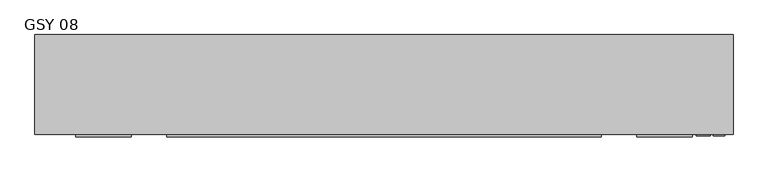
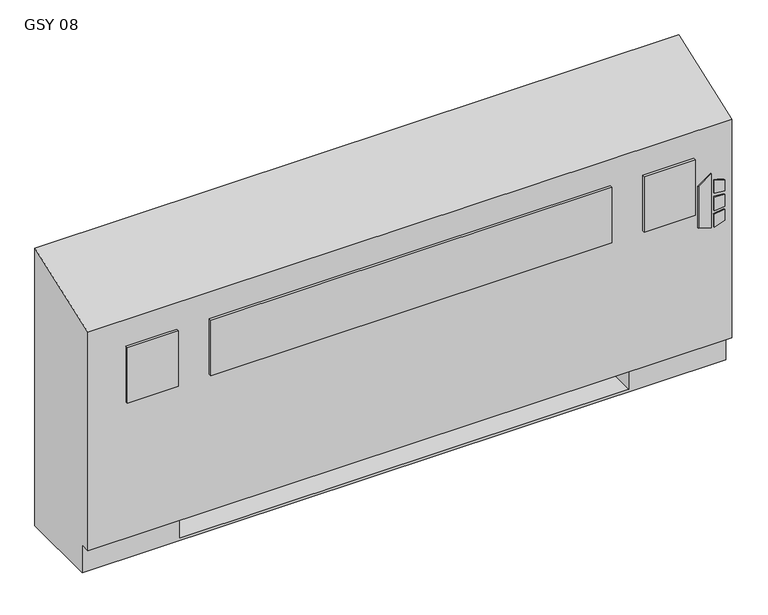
"""IFC4 building model written with IfcOpenShell, lengths in millimetres: proxy geometry, Vertical_Fan_Coil_Unit_-_GSY_-_IEC_-_2-Pipe_FS-FR_RH_2022 : GSY 08."""

import ifcopenshell
import ifcopenshell.guid

model = None  # the IFC model being written
_history = None  # IfcOwnerHistory: only IFC2X3 demands one
_inside = {}  # id of a spatial element -> (the spatial element, [elements in it])
_under = {}  # id of a project, library or spatial element -> (it, [spatial elements below it])
_declared = {}  # id of a project -> (the project, [libraries it declares])
_typed = {}  # id of a type object -> (the type object, [elements of that type])
_made_of = {}  # id of a material, layer set ... -> (it, [elements and type objects made of it])


def new_model(schema):
    """Start an empty IFC model of exactly this schema.

    Asked for "IFC4X3", IfcOpenShell would pick the latest addendum, in which some entities
    have other attributes; the version numbers below select the first issue.
    IFC2X3 requires an IfcOwnerHistory on every rooted entity: one is made here for all.
    """
    global model, _history
    if schema == "IFC4X3":
        model = ifcopenshell.file(schema_version=(4, 3, 0, 0))
    else:
        model = ifcopenshell.file(schema=schema)
    _inside.clear()
    _under.clear()
    _declared.clear()
    _typed.clear()
    _made_of.clear()
    _history = None
    if model.schema == "IFC2X3":
        org = make("IfcOrganization", Name="unknown")
        user = make(
            "IfcPersonAndOrganization",
            ThePerson=make("IfcPerson", FamilyName="unknown"),
            TheOrganization=org,
        )
        app = make(
            "IfcApplication",
            ApplicationDeveloper=org,
            Version="unknown",
            ApplicationFullName="unknown",
            ApplicationIdentifier="unknown",
        )
        _history = make(
            "IfcOwnerHistory",
            OwningUser=user,
            OwningApplication=app,
            ChangeAction="ADDED",
            CreationDate=0,
        )
    return model


def make(cls, **values):
    """One entity of the class cls with the attributes given. An attribute that is None is left unset."""
    return model.create_entity(
        cls, **{name: value for name, value in values.items() if value is not None}
    )


def rooted(cls, **values):
    """An entity with a GlobalId (a new one), such as an element, a storey or a relation."""
    return make(cls, GlobalId=ifcopenshell.guid.new(), OwnerHistory=_history, **values)


def si_unit(unit_type, name, prefix=None):
    """IfcSIUnit, for example si_unit("LENGTHUNIT", "METRE", prefix="MILLI")."""
    return make("IfcSIUnit", UnitType=unit_type, Prefix=prefix, Name=name)


def assignment(units):
    """IfcUnitAssignment: the units of a project."""
    return None if units is None else make("IfcUnitAssignment", Units=units)


def point(xyz):
    """IfcCartesianPoint."""
    return None if xyz is None else make("IfcCartesianPoint", Coordinates=xyz)


def direction(xyz):
    """IfcDirection."""
    return None if xyz is None else make("IfcDirection", DirectionRatios=xyz)


def frame(location, z_axis=None, x_axis=None):
    """IfcAxis2Placement3D, a coordinate frame: its origin and axes. An axis left out is left unset."""
    return make(
        "IfcAxis2Placement3D",
        Location=point(location),
        Axis=direction(z_axis),
        RefDirection=direction(x_axis),
    )


def frame_2d(location, x_axis=None):
    """IfcAxis2Placement2D, a coordinate frame in the plane: its origin and x axis."""
    return make(
        "IfcAxis2Placement2D", Location=point(location), RefDirection=direction(x_axis)
    )


def origin():
    """The frame at (0, 0, 0) with its axes left unset."""
    return frame((0.0, 0.0, 0.0))


def place(relative_to, where):
    """IfcLocalPlacement: puts the frame where relative to a parent placement (None: the world)."""
    return make(
        "IfcLocalPlacement", PlacementRelTo=relative_to, RelativePlacement=where
    )


def context(
    kind, dimensions, precision=None, world=None, true_north=None, identifier=None
):
    """IfcGeometricRepresentationContext, for example the 3D "Model" context."""
    return make(
        "IfcGeometricRepresentationContext",
        ContextIdentifier=identifier,
        ContextType=kind,
        CoordinateSpaceDimension=dimensions,
        Precision=precision,
        WorldCoordinateSystem=world,
        TrueNorth=true_north,
    )


def project(units=None, contexts=None):
    """IfcProject with its units and contexts."""
    return rooted(
        "IfcProject",
        Name="project",
        RepresentationContexts=contexts,
        UnitsInContext=assignment(units),
    )


def spatial(cls, under=None, at=None, **own):
    """A site, building, storey or space (cls), placed at a placement, below another one or the project."""
    s = rooted(cls, ObjectPlacement=at, **own)
    if under is not None:
        _under.setdefault(under.id(), (under, []))[1].append(s)
    return s


def polyline(points):
    """IfcPolyline through the points."""
    return make("IfcPolyline", Points=[point(p) for p in points])


def circle_curve(where, radius):
    """IfcCircle in the frame where."""
    return make("IfcCircle", Position=where, Radius=radius)


def trimmed(basis, trim1, trim2, sense, master):
    """IfcTrimmedCurve: the piece of a basis curve between two trims."""
    return make(
        "IfcTrimmedCurve",
        BasisCurve=basis,
        Trim1=trim1,
        Trim2=trim2,
        SenseAgreement=sense,
        MasterRepresentation=master,
    )


def segment(curve, same_sense, transition):
    """IfcCompositeCurveSegment."""
    return make(
        "IfcCompositeCurveSegment",
        Transition=transition,
        SameSense=same_sense,
        ParentCurve=curve,
    )


def composite_curve(segments, self_intersect=None):
    """IfcCompositeCurve: segments joined end to end."""
    return make("IfcCompositeCurve", Segments=segments, SelfIntersect=self_intersect)


def outline(outer, holes=None, kind="AREA"):
    """IfcArbitraryClosedProfileDef: a profile drawn as a closed curve; with holes, ...WithVoids."""
    if holes is None:
        return make("IfcArbitraryClosedProfileDef", ProfileType=kind, OuterCurve=outer)
    return make(
        "IfcArbitraryProfileDefWithVoids",
        ProfileType=kind,
        OuterCurve=outer,
        InnerCurves=holes,
    )


def extrude(swept, where, along, depth):
    """IfcExtrudedAreaSolid: the profile swept, set in the frame where, extruded along a direction by depth."""
    return make(
        "IfcExtrudedAreaSolid",
        SweptArea=swept,
        Position=where,
        ExtrudedDirection=direction(along),
        Depth=depth,
    )


def shape(context_of_items, identifier, shape_type, items):
    """IfcShapeRepresentation: the items that make up one representation, for example the "Body"."""
    return make(
        "IfcShapeRepresentation",
        ContextOfItems=context_of_items,
        RepresentationIdentifier=identifier,
        RepresentationType=shape_type,
        Items=items,
    )


def source(mapping_origin, context_of_items, identifier, shape_type, items):
    """IfcRepresentationMap: a shape defined once, which mapped items show again and again."""
    return make(
        "IfcRepresentationMap",
        MappingOrigin=mapping_origin,
        MappedRepresentation=shape(context_of_items, identifier, shape_type, items),
    )


def transform(
    local_origin,
    x_axis=None,
    y_axis=None,
    z_axis=None,
    scale=None,
    scale2=None,
    scale3=None,
    uniform=True,
):
    """IfcCartesianTransformationOperator3D, or its non-uniform kind. x_axis, y_axis, z_axis: its Axis1, 2, 3."""
    if uniform:
        return make(
            "IfcCartesianTransformationOperator3D",
            Axis1=direction(x_axis),
            Axis2=direction(y_axis),
            LocalOrigin=point(local_origin),
            Scale=scale,
            Axis3=direction(z_axis),
        )
    return make(
        "IfcCartesianTransformationOperator3DnonUniform",
        Axis1=direction(x_axis),
        Axis2=direction(y_axis),
        LocalOrigin=point(local_origin),
        Scale=scale,
        Axis3=direction(z_axis),
        Scale2=scale2,
        Scale3=scale3,
    )


def mapped(mapping_source, mapping_target):
    """IfcMappedItem: shows the shape of a source again, moved by a transform."""
    return make(
        "IfcMappedItem", MappingSource=mapping_source, MappingTarget=mapping_target
    )


def made_of(thing, what):
    """Note that an element or type object is made of a material, layer set ...; save() writes the relation."""
    if what is not None:
        _made_of.setdefault(what.id(), (what, []))[1].append(thing)
    return thing


def element(
    cls,
    number,
    at=None,
    inside=None,
    cuts=None,
    type_object=None,
    material=None,
    context=None,
    identifier="Body",
    shape_type=None,
    held_by="IfcProductDefinitionShape",
    body=None,
    shapes=None,
    **own,
):
    """One element of the class cls, such as IfcWall. Its Tag is "e" and its number.

    at: its placement. inside: the storey or other place that contains it. cuts: it is an
    opening in that element (IfcRelVoidsElement). A single representation is given by context,
    identifier, shape_type and body (its items); several are given by shapes. held_by: the class
    of the entity that holds the representations. save() writes the other relations.
    """
    e = rooted(cls, Tag="e%d" % number, ObjectPlacement=at, **own)
    if body is not None:
        shapes = [shape(context, identifier, shape_type, body)]
    if shapes is not None:
        e.Representation = make(held_by, Representations=shapes)
    if inside is not None:
        _inside.setdefault(inside.id(), (inside, []))[1].append(e)
    if cuts is not None:
        rooted(
            "IfcRelVoidsElement", RelatingBuildingElement=cuts, RelatedOpeningElement=e
        )
    if type_object is not None:
        _typed.setdefault(type_object.id(), (type_object, []))[1].append(e)
    return made_of(e, material)


def aggregate(whole, parts):
    """IfcRelAggregates: a whole, such as a stair, and the parts it consists of."""
    return rooted("IfcRelAggregates", RelatingObject=whole, RelatedObjects=parts)


def save(model, path):
    """Write the relations noted so far, then the file.

    IfcRelAggregates (storeys below a building ...), IfcRelContainedInSpatialStructure (elements
    in a storey), IfcRelDefinesByType, IfcRelAssociatesMaterial and IfcRelDeclares: one each for
    every whole, place, type object, material and project.
    """
    for whole, parts in _under.values():
        aggregate(whole, parts)
    for where, things in _inside.values():
        rooted(
            "IfcRelContainedInSpatialStructure",
            RelatedElements=things,
            RelatingStructure=where,
        )
    for kind, things in _typed.values():
        rooted("IfcRelDefinesByType", RelatedObjects=things, RelatingType=kind)
    for what, things in _made_of.values():
        rooted("IfcRelAssociatesMaterial", RelatedObjects=things, RelatingMaterial=what)
    for by, libraries in _declared.values():
        rooted("IfcRelDeclares", RelatingContext=by, RelatedDefinitions=libraries)
    model.write(path)


def plane_surface(at):
    """IfcPlane: the flat surface through the origin of the frame at, square to its z axis."""
    return make("IfcPlane", Position=at)


def revolved_surface(curve, axis_point, axis_direction):
    """IfcSurfaceOfRevolution: the curve turned about the line through axis_point along axis_direction."""
    return make(
        "IfcSurfaceOfRevolution",
        SweptCurve=make("IfcArbitraryOpenProfileDef", ProfileType="CURVE", Curve=curve),
        AxisPosition=make("IfcAxis1Placement", Location=point(axis_point), Axis=direction(axis_direction)),
    )


def advanced_brep(points, edges, surfaces, faces):
    """IfcAdvancedBrep: a solid bounded by faces that lie on surfaces and meet in shared edges.

    An edge is (start, end): straight between two places in points (the first is 0);
    or (start, end, curve); or (start, end, curve, False) where it runs against its curve.
    A face is (place in surfaces, loops), or (place, loops, False) where it looks against
    its surface's normal. A loop lists edges by number (the first is 1), with a minus sign
    where the edge is run from its end to its start. The first loop is the outer one.
    """
    corners = [point(p) for p in points]
    vertices = [make("IfcVertexPoint", VertexGeometry=c) for c in corners]
    made = []
    for start, end, *more in edges:
        made.append(
            make(
                "IfcEdgeCurve",
                EdgeStart=vertices[start],
                EdgeEnd=vertices[end],
                EdgeGeometry=more[0] if more else make("IfcPolyline", Points=[corners[start], corners[end]]),
                SameSense=more[1] if len(more) > 1 else True,
            )
        )
    hull = []
    for where, loops, *sense in faces:
        bounds = []
        for j, loop in enumerate(loops):
            ring = [make("IfcOrientedEdge", EdgeElement=made[abs(k) - 1], Orientation=k > 0) for k in loop]
            bounds.append(
                make(
                    "IfcFaceOuterBound" if j == 0 else "IfcFaceBound",
                    Bound=make("IfcEdgeLoop", EdgeList=ring),
                    Orientation=True,
                )
            )
        hull.append(make("IfcAdvancedFace", Bounds=bounds, FaceSurface=surfaces[where], SameSense=sense[0] if sense else True))
    return make("IfcAdvancedBrep", Outer=make("IfcClosedShell", CfsFaces=hull))


def gsy_08_512bcfd8(model_context):
    return source(origin(), model_context, "Body", "SolidModel", [
        extrude(outline(polyline([(391.6086829, 868.4368862), (381.6606126, 900.6102728), (523.831537, 900.6102728), (500.8095309, 868.4368862), (391.6086829, 868.4368862)])), frame((0.0, 12.7, 0.0), z_axis=(0.0, 1.0, 0.0), x_axis=(0.0, 0.0, 1.0)), (0.0, 0.0, 1.0), 3.175),
        extrude(outline(polyline([(470.6079683, 907.3686058), (467.4055757, 933.45), (496.6344168, 933.45), (504.6988318, 907.3686058), (470.6079683, 907.3686058)])), frame((0.0, 12.7, 0.0), z_axis=(0.0, 1.0, 0.0), x_axis=(0.0, 0.0, 1.0)), (0.0, 0.0, 1.0), 3.175),
        extrude(outline(polyline([(418.7444414, 933.45), (415.0789404, 907.3686058), (381.6606126, 907.3686058), (390.2948498, 933.45), (418.7444414, 933.45)])), frame((0.0, 12.7, 0.0), z_axis=(0.0, 1.0, 0.0), x_axis=(0.0, 0.0, 1.0)), (0.0, 0.0, 1.0), 3.175),
        extrude(outline(polyline([(458.0596028, 933.45), (460.3414292, 907.3686058), (424.4038806, 907.3686058), (427.1451456, 933.45), (458.0596028, 933.45)])), frame((0.0, 12.7, 0.0), z_axis=(0.0, 1.0, 0.0), x_axis=(0.0, 0.0, 1.0)), (0.0, 0.0, 1.0), 3.175),
        extrude(outline(polyline([(-426.593, 9.525), (-553.593, 9.525), (-553.593, 15.875), (-426.593, 15.875), (-426.593, 9.525)])), frame((0.0, 0.0, 431.8), z_axis=(0.0, 0.0, 1.0), x_axis=(1.0, 0.0, 0.0)), (0.0, 0.0, 1.0), 146.05),
        extrude(outline(polyline([(650.875, 9.525), (-346.075, 9.525), (-346.075, 15.875), (650.875, 15.875), (650.875, 9.525)])), frame((0.0, 0.0, 431.8), z_axis=(0.0, 0.0, 1.0), x_axis=(1.0, 0.0, 0.0)), (0.0, 0.0, 1.0), 146.05),
        extrude(outline(polyline([(858.393, 9.525), (731.393, 9.525), (731.393, 15.875), (858.393, 15.875), (858.393, 9.525)])), frame((0.0, 0.0, 431.8), z_axis=(0.0, 0.0, 1.0), x_axis=(1.0, 0.0, 0.0)), (0.0, 0.0, 1.0), 146.05),
        extrude(outline(polyline([(-527.05, 81.534), (-527.05, 223.266), (-127.0, 223.266), (-127.0, 81.534), (-527.05, 81.534)])), frame((0.0, 0.0, 327.025), z_axis=(0.0, 0.0, 1.0), x_axis=(1.0, 0.0, 0.0)), (0.0, 0.0, 1.0), 260.35),
        extrude(outline(composite_curve([segment(trimmed(circle_curve(frame_2d((80.645, 397.002)), 7.9375), [point((80.645, 404.9395))], [point((80.645, 389.0645))], False, "CARTESIAN"), True, "CONTINUOUS"), segment(trimmed(circle_curve(frame_2d((80.645, 397.002)), 7.9375), [point((80.645, 389.0645))], [point((80.645, 404.9395))], False, "CARTESIAN"), True, "CONTINUOUS")], self_intersect=False)), frame((711.2, 0.0, 0.0), z_axis=(1.0, 0.0, 0.0), x_axis=(0.0, 1.0, 0.0)), (0.0, 0.0, 1.0), 50.8),
        extrude(outline(composite_curve([segment(trimmed(circle_curve(frame_2d((156.8958, 535.8892)), 7.9375), [point((156.8958, 543.8267))], [point((156.8958, 527.9517))], False, "CARTESIAN"), True, "CONTINUOUS"), segment(trimmed(circle_curve(frame_2d((156.8958, 535.8892)), 7.9375), [point((156.8958, 527.9517))], [point((156.8958, 543.8267))], False, "CARTESIAN"), True, "CONTINUOUS")], self_intersect=False)), frame((711.2, 0.0, 0.0), z_axis=(1.0, 0.0, 0.0), x_axis=(0.0, 1.0, 0.0)), (0.0, 0.0, 1.0), 50.8),
        advanced_brep(
        [(-647.7, 244.475, 0.0), (952.5, 244.475, 0.0), (952.5, 41.275, 0.0), (-647.7, 41.275, 0.0), (-647.7, 244.475, 730.25), (952.5, 244.475, 730.25), (711.2, 244.475, 73.025), (939.8, 244.475, 73.025), (939.8, 244.475, 654.05), (711.2, 244.475, 654.05), (711.2, 244.475, 414.8650565), (739.775, 244.475, 414.8650565), (739.775, 244.475, 385.2349435), (711.2, 244.475, 385.2349435), (711.2, 244.475, 287.3375), (739.775, 244.475, 287.3375), (739.775, 244.475, 258.7625), (711.2, 244.475, 258.7625), (711.2, 244.475, 141.2875), (739.775, 244.475, 141.2875), (739.775, 244.475, 112.7125), (711.2, 244.475, 112.7125), (-406.4, 244.475, 654.05), (-635.0, 244.475, 654.05), (-635.0, 244.475, 73.025), (-406.4, 244.475, 73.025), (-406.4, 244.475, 112.7125), (-434.975, 244.475, 112.7125), (-434.975, 244.475, 141.2875), (-406.4, 244.475, 141.2875), (-406.4, 244.475, 258.7625), (-434.975, 244.475, 258.7625), (-434.975, 244.475, 287.3375), (-406.4, 244.475, 287.3375), (-406.4, 244.475, 385.2349435), (-434.975, 244.475, 385.2349435), (-434.975, 244.475, 414.8650565), (-406.4, 244.475, 414.8650565), (729.4626, 244.475, 127.0), (718.3374, 244.475, 127.0), (729.4626, 244.475, 400.05), (718.3374, 244.475, 400.05), (729.4626, 244.475, 273.05), (718.3374, 244.475, 273.05), (-413.5374, 244.475, 127.0), (-424.6626, 244.475, 127.0), (-413.5374, 244.475, 273.05), (-424.6626, 244.475, 273.05), (-413.5374, 244.475, 400.05), (-424.6626, 244.475, 400.05), (-647.7, 41.275, 73.025), (-647.7, 15.875, 73.025), (-647.7, 15.875, 647.7), (952.5, 15.875, 73.025), (952.5, 15.875, 647.7), (952.5, 41.275, 73.025), (-406.4, 41.275, 73.025), (-406.4, 225.425, 73.025), (711.2, 225.425, 73.025), (711.2, 41.275, 73.025), (711.2, 41.275, 6.35), (-406.4, 41.275, 6.35), (711.2, 41.275, 654.05), (939.8, 41.275, 654.05), (939.8, 41.275, 73.025), (711.2, 41.275, 73.025), (-406.4, 41.275, 654.05), (-406.4, 41.275, 73.025), (-635.0, 41.275, 73.025), (-635.0, 41.275, 654.05), (711.2, 225.425, 73.025), (711.2, 238.125, 112.7125), (711.2, 238.125, 141.2875), (711.2, 238.125, 258.7625), (711.2, 238.125, 287.3375), (711.2, 238.125, 385.2349435), (711.2, 238.125, 414.8650565), (-406.4, 225.425, 73.025), (-406.4, 238.125, 414.8650565), (-406.4, 238.125, 385.2349435), (-406.4, 238.125, 287.3375), (-406.4, 238.125, 258.7625), (-406.4, 238.125, 141.2875), (-406.4, 238.125, 112.7125), (-406.4, 225.425, 6.35), (711.2, 225.425, 6.35), (739.775, 238.125, 112.7125), (739.775, 238.125, 141.2875), (718.3374, 238.125, 127.0), (729.4626, 238.125, 127.0), (739.775, 238.125, 258.7625), (739.775, 238.125, 287.3375), (718.3374, 238.125, 273.05), (729.4626, 238.125, 273.05), (739.775, 238.125, 385.2349435), (739.775, 238.125, 414.8650565), (718.3374, 238.125, 400.05), (729.4626, 238.125, 400.05), (-434.975, 238.125, 141.2875), (-434.975, 238.125, 112.7125), (-424.6626, 238.125, 127.0), (-413.5374, 238.125, 127.0), (-434.975, 238.125, 287.3375), (-434.975, 238.125, 258.7625), (-424.6626, 238.125, 273.05), (-413.5374, 238.125, 273.05), (-434.975, 238.125, 414.8650565), (-434.975, 238.125, 385.2349435), (-424.6626, 238.125, 400.05), (-413.5374, 238.125, 400.05)],
        [
            (0, 1),
            (1, 2),
            (2, 3),
            (3, 0),
            (0, 4),
            (4, 5),
            (5, 1),
            (6, 7),
            (7, 8),
            (8, 9),
            (9, 10),
            (10, 11),
            (11, 12),
            (12, 13),
            (13, 14),
            (14, 15),
            (15, 16),
            (16, 17),
            (17, 18),
            (18, 19),
            (19, 20),
            (20, 21),
            (21, 6),
            (22, 23),
            (23, 24),
            (24, 25),
            (25, 26),
            (26, 27),
            (27, 28),
            (28, 29),
            (29, 30),
            (30, 31),
            (31, 32),
            (32, 33),
            (33, 34),
            (34, 35),
            (35, 36),
            (36, 37),
            (37, 22),
            (38, 39, circle_curve(frame((723.9, 244.475, 127.0), z_axis=(0.0, -1.0, 0.0), x_axis=(-1.0, 0.0, 0.0)), 5.5626)),
            (39, 38, circle_curve(frame((723.9, 244.475, 127.0), z_axis=(0.0, -1.0, 0.0), x_axis=(-1.0, 0.0, 0.0)), 5.5626)),
            (40, 41, circle_curve(frame((723.9, 244.475, 400.05), z_axis=(0.0, -1.0, 0.0), x_axis=(-1.0, 0.0, 0.0)), 5.5626)),
            (41, 40, circle_curve(frame((723.9, 244.475, 400.05), z_axis=(0.0, -1.0, 0.0), x_axis=(-1.0, 0.0, 0.0)), 5.5626)),
            (42, 43, circle_curve(frame((723.9, 244.475, 273.05), z_axis=(0.0, -1.0, 0.0), x_axis=(-1.0, 0.0, 0.0)), 5.5626)),
            (43, 42, circle_curve(frame((723.9, 244.475, 273.05), z_axis=(0.0, -1.0, 0.0), x_axis=(-1.0, 0.0, 0.0)), 5.5626)),
            (44, 45, circle_curve(frame((-419.1, 244.475, 127.0), z_axis=(0.0, -1.0, 0.0), x_axis=(-1.0, 0.0, 0.0)), 5.5626)),
            (45, 44, circle_curve(frame((-419.1, 244.475, 127.0), z_axis=(0.0, -1.0, 0.0), x_axis=(-1.0, 0.0, 0.0)), 5.5626)),
            (46, 47, circle_curve(frame((-419.1, 244.475, 273.05), z_axis=(0.0, -1.0, 0.0), x_axis=(-1.0, 0.0, 0.0)), 5.5626)),
            (47, 46, circle_curve(frame((-419.1, 244.475, 273.05), z_axis=(0.0, -1.0, 0.0), x_axis=(-1.0, 0.0, 0.0)), 5.5626)),
            (48, 49, circle_curve(frame((-419.1, 244.475, 400.05), z_axis=(0.0, -1.0, 0.0), x_axis=(-1.0, 0.0, 0.0)), 5.5626)),
            (49, 48, circle_curve(frame((-419.1, 244.475, 400.05), z_axis=(0.0, -1.0, 0.0), x_axis=(-1.0, 0.0, 0.0)), 5.5626)),
            (3, 50),
            (50, 51),
            (51, 52),
            (52, 4),
            (51, 53),
            (53, 54),
            (54, 52),
            (5, 54),
            (53, 55),
            (55, 2),
            (50, 56),
            (56, 57),
            (57, 58),
            (58, 59),
            (59, 55),
            (59, 60),
            (60, 61),
            (61, 56),
            (62, 63),
            (63, 64),
            (64, 65),
            (65, 62),
            (66, 67),
            (67, 68),
            (68, 69),
            (69, 66),
            (65, 70),
            (70, 6),
            (21, 71),
            (71, 72),
            (72, 18),
            (17, 73),
            (73, 74),
            (74, 14),
            (13, 75),
            (75, 76),
            (76, 10),
            (9, 62),
            (64, 7),
            (63, 8),
            (69, 23),
            (22, 66),
            (68, 24),
            (67, 77),
            (77, 25),
            (37, 78),
            (78, 79),
            (79, 34),
            (33, 80),
            (80, 81),
            (81, 30),
            (29, 82),
            (82, 83),
            (83, 26),
            (57, 84),
            (84, 85),
            (85, 58),
            (85, 60),
            (84, 61),
            (71, 86),
            (86, 87),
            (87, 72),
            (88, 89, circle_curve(frame((723.9, 238.125, 127.0), z_axis=(0.0, 1.0, 0.0), x_axis=(-1.0, 0.0, 0.0)), 5.5626)),
            (89, 88, circle_curve(frame((723.9, 238.125, 127.0), z_axis=(0.0, 1.0, 0.0), x_axis=(-1.0, 0.0, 0.0)), 5.5626)),
            (73, 90),
            (90, 91),
            (91, 74),
            (92, 93, circle_curve(frame((723.9, 238.125, 273.05), z_axis=(0.0, 1.0, 0.0), x_axis=(-1.0, 0.0, 0.0)), 5.5626)),
            (93, 92, circle_curve(frame((723.9, 238.125, 273.05), z_axis=(0.0, 1.0, 0.0), x_axis=(-1.0, 0.0, 0.0)), 5.5626)),
            (75, 94),
            (94, 95),
            (95, 76),
            (96, 97, circle_curve(frame((723.9, 238.125, 400.05), z_axis=(0.0, 1.0, 0.0), x_axis=(-1.0, 0.0, 0.0)), 5.5626)),
            (97, 96, circle_curve(frame((723.9, 238.125, 400.05), z_axis=(0.0, 1.0, 0.0), x_axis=(-1.0, 0.0, 0.0)), 5.5626)),
            (98, 99),
            (99, 83),
            (82, 98),
            (100, 101, circle_curve(frame((-419.1, 238.125, 127.0), z_axis=(0.0, 1.0, 0.0), x_axis=(-1.0, 0.0, 0.0)), 5.5626)),
            (101, 100, circle_curve(frame((-419.1, 238.125, 127.0), z_axis=(0.0, 1.0, 0.0), x_axis=(-1.0, 0.0, 0.0)), 5.5626)),
            (102, 103),
            (103, 81),
            (80, 102),
            (104, 105, circle_curve(frame((-419.1, 238.125, 273.05), z_axis=(0.0, 1.0, 0.0), x_axis=(-1.0, 0.0, 0.0)), 5.5626)),
            (105, 104, circle_curve(frame((-419.1, 238.125, 273.05), z_axis=(0.0, 1.0, 0.0), x_axis=(-1.0, 0.0, 0.0)), 5.5626)),
            (106, 107),
            (107, 79),
            (78, 106),
            (108, 109, circle_curve(frame((-419.1, 238.125, 400.05), z_axis=(0.0, 1.0, 0.0), x_axis=(-1.0, 0.0, 0.0)), 5.5626)),
            (109, 108, circle_curve(frame((-419.1, 238.125, 400.05), z_axis=(0.0, 1.0, 0.0), x_axis=(-1.0, 0.0, 0.0)), 5.5626)),
            (87, 19),
            (86, 20),
            (91, 15),
            (90, 16),
            (95, 11),
            (94, 12),
            (28, 98),
            (99, 27),
            (32, 102),
            (103, 31),
            (36, 106),
            (107, 35),
            (88, 39),
            (38, 89),
            (96, 41),
            (40, 97),
            (92, 43),
            (42, 93),
            (100, 45),
            (44, 101),
            (104, 47),
            (46, 105),
            (108, 49),
            (48, 109),
        ],
        [
            plane_surface(frame((-647.7, 244.475, 0.0), z_axis=(0.0, 0.0, -1.0), x_axis=(1.0, 0.0, 0.0))),
            plane_surface(frame((952.5, 244.475, 730.25), z_axis=(0.0, 1.0, 0.0), x_axis=(0.0, 0.0, -1.0))),
            plane_surface(frame((-647.7, 244.475, 730.25), z_axis=(-1.0, 0.0, 0.0), x_axis=(0.0, 0.0, -1.0))),
            plane_surface(frame((-647.7, 15.875, 730.25), z_axis=(0.0, -1.0, 0.0), x_axis=(0.0, 0.0, -1.0))),
            plane_surface(frame((952.5, 15.875, 730.25), z_axis=(1.0, 0.0, 0.0), x_axis=(0.0, 0.0, -1.0))),
            plane_surface(frame((-647.7, 15.875, 73.025), z_axis=(0.0, 0.0, -1.0), x_axis=(1.0, 0.0, 0.0))),
            plane_surface(frame((-647.7, 41.275, 73.025), z_axis=(0.0, -1.0, 0.0), x_axis=(1.0, 0.0, 0.0))),
            plane_surface(frame((711.2, 41.275, 654.05), z_axis=(0.0, 1.0, 0.0), x_axis=(0.0, 0.0, -1.0))),
            plane_surface(frame((711.2, 41.275, 654.05), z_axis=(1.0, 0.0, 0.0), x_axis=(0.0, 1.0, 0.0))),
            plane_surface(frame((711.2, 41.275, 73.025), z_axis=(0.0, 0.0, 1.0), x_axis=(0.0, 1.0, 0.0))),
            plane_surface(frame((939.8, 41.275, 73.025), z_axis=(-1.0, 0.0, 0.0), x_axis=(0.0, 1.0, 0.0))),
            plane_surface(frame((939.8, 41.275, 654.05), z_axis=(0.0, 0.0, -1.0), x_axis=(0.0, 1.0, 0.0))),
            plane_surface(frame((-406.4, 41.275, 654.05), z_axis=(0.0, 0.0, -1.0), x_axis=(0.0, 1.0, 0.0))),
            plane_surface(frame((-635.0, 41.275, 654.05), z_axis=(1.0, 0.0, 0.0), x_axis=(0.0, 1.0, 0.0))),
            plane_surface(frame((-635.0, 41.275, 73.025), z_axis=(0.0, 0.0, 1.0), x_axis=(0.0, 1.0, 0.0))),
            plane_surface(frame((-406.4, 41.275, 73.025), z_axis=(-1.0, 0.0, 0.0), x_axis=(0.0, 1.0, 0.0))),
            plane_surface(frame((711.2, 225.425, 73.025), z_axis=(0.0, -1.0, 0.0), x_axis=(0.0, 0.0, -1.0))),
            plane_surface(frame((711.2, 225.425, 73.025), z_axis=(-1.0, 0.0, 0.0), x_axis=(0.0, -1.0, 0.0))),
            plane_surface(frame((711.2, 225.425, 6.35), z_axis=(0.0, 0.0, 1.0), x_axis=(0.0, -1.0, 0.0))),
            plane_surface(frame((-406.4, 225.425, 6.35), z_axis=(1.0, 0.0, 0.0), x_axis=(0.0, -1.0, 0.0))),
            plane_surface(frame((739.775, 238.125, 141.2875), z_axis=(0.0, -1.0, 0.0), x_axis=(-1.0, 0.0, 0.0))),
            plane_surface(frame((711.2, 244.475, 141.2875), z_axis=(0.0, 0.0, 1.0), x_axis=(0.0, -1.0, 0.0))),
            plane_surface(frame((739.775, 244.475, 141.2875), z_axis=(1.0, 0.0, 0.0), x_axis=(0.0, -1.0, 0.0))),
            plane_surface(frame((739.775, 244.475, 112.7125), z_axis=(0.0, 0.0, -1.0), x_axis=(0.0, -1.0, 0.0))),
            plane_surface(frame((711.2, 244.475, 287.3375), z_axis=(0.0, 0.0, 1.0), x_axis=(0.0, -1.0, 0.0))),
            plane_surface(frame((739.775, 244.475, 287.3375), z_axis=(1.0, 0.0, 0.0), x_axis=(0.0, -1.0, 0.0))),
            plane_surface(frame((739.775, 244.475, 258.7625), z_axis=(0.0, 0.0, -1.0), x_axis=(0.0, -1.0, 0.0))),
            plane_surface(frame((711.2, 244.475, 414.8650565), z_axis=(0.0, 0.0, 1.0), x_axis=(0.0, -1.0, 0.0))),
            plane_surface(frame((739.775, 244.475, 414.8650565), z_axis=(1.0, 0.0, 0.0), x_axis=(0.0, -1.0, 0.0))),
            plane_surface(frame((739.775, 244.475, 385.2349435), z_axis=(0.0, 0.0, -1.0), x_axis=(0.0, -1.0, 0.0))),
            plane_surface(frame((-434.975, 244.475, 141.2875), z_axis=(0.0, 0.0, 1.0), x_axis=(0.0, -1.0, 0.0))),
            plane_surface(frame((-406.4, 244.475, 112.7125), z_axis=(0.0, 0.0, -1.0), x_axis=(0.0, -1.0, 0.0))),
            plane_surface(frame((-434.975, 244.475, 112.7125), z_axis=(-1.0, 0.0, 0.0), x_axis=(0.0, -1.0, 0.0))),
            plane_surface(frame((-434.975, 244.475, 287.3375), z_axis=(0.0, 0.0, 1.0), x_axis=(0.0, -1.0, 0.0))),
            plane_surface(frame((-406.4, 244.475, 258.7625), z_axis=(0.0, 0.0, -1.0), x_axis=(0.0, -1.0, 0.0))),
            plane_surface(frame((-434.975, 244.475, 258.7625), z_axis=(-1.0, 0.0, 0.0), x_axis=(0.0, -1.0, 0.0))),
            plane_surface(frame((-434.975, 244.475, 414.8650565), z_axis=(0.0, 0.0, 1.0), x_axis=(0.0, -1.0, 0.0))),
            plane_surface(frame((-406.4, 244.475, 385.2349435), z_axis=(0.0, 0.0, -1.0), x_axis=(0.0, -1.0, 0.0))),
            plane_surface(frame((-434.975, 244.475, 385.2349435), z_axis=(-1.0, 0.0, 0.0), x_axis=(0.0, -1.0, 0.0))),
            revolved_surface(polyline([(718.3374, 238.125, 127.0), (718.3374, 244.475, 127.0)]), (723.9, 244.475, 127.0), (0.0, -1.0, 0.0)),
            revolved_surface(polyline([(718.3374, 238.125, 400.05), (718.3374, 244.475, 400.05)]), (723.9, 244.475, 400.05), (0.0, -1.0, 0.0)),
            revolved_surface(polyline([(718.3374, 238.125, 273.05), (718.3374, 244.475, 273.05)]), (723.9, 244.475, 273.05), (0.0, -1.0, 0.0)),
            revolved_surface(polyline([(-424.6626, 238.125, 127.0), (-424.6626, 244.475, 127.0)]), (-419.1, 244.475, 127.0), (0.0, -1.0, 0.0)),
            revolved_surface(polyline([(-424.6626, 238.125, 273.05), (-424.6626, 244.475, 273.05)]), (-419.1, 244.475, 273.05), (0.0, -1.0, 0.0)),
            revolved_surface(polyline([(-424.6626, 238.125, 400.05), (-424.6626, 244.475, 400.05)]), (-419.1, 244.475, 400.05), (0.0, -1.0, 0.0)),
            plane_surface(frame((-647.7, 244.475, 730.25), z_axis=(0.0, -0.33964446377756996, 0.9405538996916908), x_axis=(1.0, 0.0, 0.0))),
        ],
        [
            (0, [[1, 2, 3, 4]]),
            (1, [[-1, 5, 6, 7], [8, 9, 10, 11, 12, 13, 14, 15, 16, 17, 18, 19, 20, 21, 22, 23], [24, 25, 26, 27, 28, 29, 30, 31, 32, 33, 34, 35, 36, 37, 38, 39], [40, 41], [42, 43], [44, 45], [46, 47], [48, 49], [50, 51]]),
            (2, [[-5, -4, 52, 53, 54, 55]]),
            (3, [[56, 57, 58, -54]]),
            (4, [[-7, 59, -57, 60, 61, -2]]),
            (5, [[-53, 62, 63, 64, 65, 66, -60, -56]]),
            (6, [[-3, -61, -66, 67, 68, 69, -62, -52]]),
            (7, [[70, 71, 72, 73]]),
            (7, [[74, 75, 76, 77]]),
            (8, [[-73, 78, 79, -23, 80, 81, 82, -19, 83, 84, 85, -15, 86, 87, 88, -11, 89]]),
            (9, [[-72, 90, -8, -79, -78]]),
            (10, [[-71, 91, -9, -90]]),
            (11, [[-70, -89, -10, -91]]),
            (12, [[-77, 92, -24, 93]]),
            (13, [[-76, 94, -25, -92]]),
            (14, [[-75, 95, 96, -26, -94]]),
            (15, [[-74, -93, -39, 97, 98, 99, -35, 100, 101, 102, -31, 103, 104, 105, -27, -96, -95]]),
            (16, [[-64, 106, 107, 108]]),
            (17, [[-108, 109, -67, -65]]),
            (18, [[-107, 110, -68, -109]]),
            (19, [[-106, -63, -69, -110]]),
            (20, [[111, 112, 113, -81], [114, 115]]),
            (20, [[116, 117, 118, -84], [119, 120]]),
            (20, [[121, 122, 123, -87], [124, 125]]),
            (20, [[126, 127, -104, 128], [129, 130]]),
            (20, [[131, 132, -101, 133], [134, 135]]),
            (20, [[136, 137, -98, 138], [139, 140]]),
            (21, [[-113, 141, -20, -82]]),
            (22, [[-112, 142, -21, -141]]),
            (23, [[-111, -80, -22, -142]]),
            (24, [[-118, 143, -16, -85]]),
            (25, [[-117, 144, -17, -143]]),
            (26, [[-116, -83, -18, -144]]),
            (27, [[-123, 145, -12, -88]]),
            (28, [[-122, 146, -13, -145]]),
            (29, [[-121, -86, -14, -146]]),
            (30, [[-128, -103, -30, 147]]),
            (31, [[-127, 148, -28, -105]]),
            (32, [[-126, -147, -29, -148]]),
            (33, [[-133, -100, -34, 149]]),
            (34, [[-132, 150, -32, -102]]),
            (35, [[-131, -149, -33, -150]]),
            (36, [[-138, -97, -38, 151]]),
            (37, [[-137, 152, -36, -99]]),
            (38, [[-136, -151, -37, -152]]),
            (39, [[153, -40, 154, -114]]),
            (39, [[-153, -115, -154, -41]]),
            (40, [[155, -42, 156, -124]]),
            (40, [[-155, -125, -156, -43]]),
            (41, [[157, -44, 158, -119]]),
            (41, [[-157, -120, -158, -45]]),
            (42, [[159, -46, 160, -129]]),
            (42, [[-159, -130, -160, -47]]),
            (43, [[161, -48, 162, -134]]),
            (43, [[-161, -135, -162, -49]]),
            (44, [[163, -50, 164, -139]]),
            (44, [[-163, -140, -164, -51]]),
            (45, [[-6, -55, -58, -59]]),
        ],
    ),
    ])


if __name__ == "__main__":
    model = new_model("IFC4")
    model_context = context("Model", 3, world=origin())
    ifc_project = project(units=[si_unit("LENGTHUNIT", "METRE", prefix="MILLI")], contexts=[model_context])
    site = spatial("IfcSite", under=ifc_project)
    building = spatial("IfcBuilding", under=site)
    placement = place(None, origin())
    gsy_08_shape = gsy_08_512bcfd8(model_context)
    element("IfcBuildingElementProxy", 1, Name="Vertical_Fan_Coil_Unit_-_GSY_-_IEC_-_2-Pipe_FS-FR_RH_2022 : GSY 08", ObjectType="Vertical_Fan_Coil_Unit_-_GSY_-_IEC_-_2-Pipe_FS-FR_RH_2022 : GSY 08", at=placement, inside=building, context=model_context, shape_type="MappedRepresentation", body=[
        mapped(gsy_08_shape, transform((0.0, 0.0, 0.0), x_axis=(1.0, 0.0, 0.0), y_axis=(0.0, 1.0, 0.0), z_axis=(0.0, 0.0, 1.0))),
    ])
    save(model, "model.ifc")
